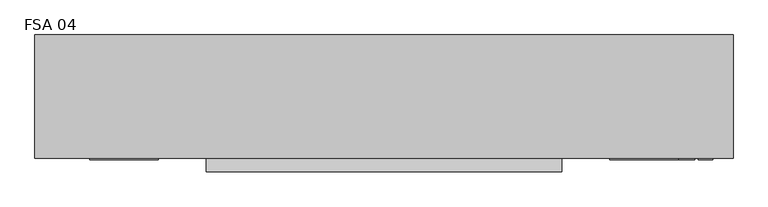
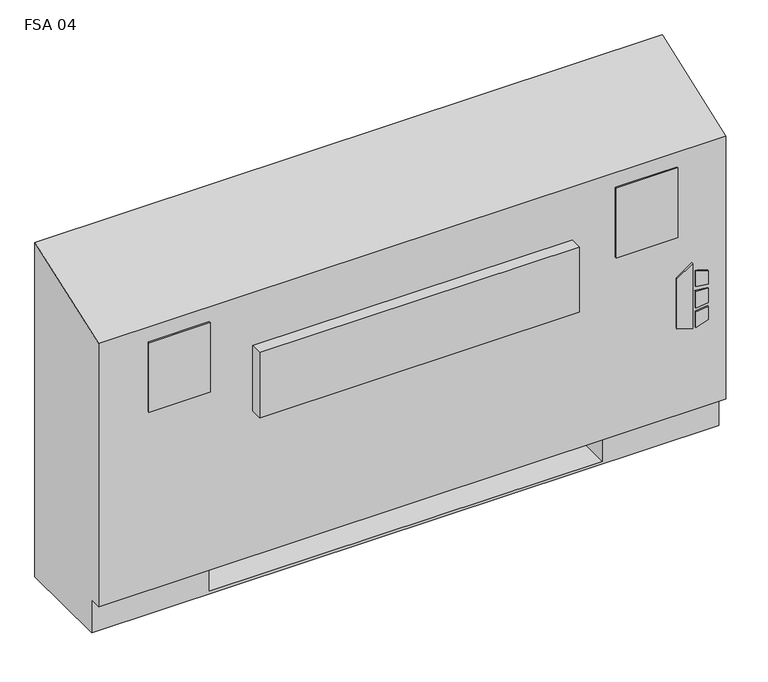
"""IFC4 building model written with IfcOpenShell, lengths in millimetres: proxy geometry, Vertical_Fan_Coil_Unit_-_FSA_-_IEC_-_2-Pipe_FS-FR_RH_2022 : FSA 04."""

from ifc_helpers import new_model, si_unit, point, frame, frame_2d, origin, place, context, project, spatial, polyline, circle_curve, trimmed, segment, composite_curve, outline, extrude, source, transform, mapped, element, save
from ifc_brep_helpers import plane_surface, revolved_surface, advanced_brep


def fsa_04_9fea3f96(model_context):
    return source(origin(), model_context, "Body", "SolidModel", [
        extrude(outline(polyline([(263.9480703, 696.9868862), (254.0, 729.1602728), (396.1709244, 729.1602728), (373.1489183, 696.9868862), (263.9480703, 696.9868862)])), frame((0.0, 12.7, 0.0), z_axis=(0.0, 1.0, 0.0), x_axis=(0.0, 0.0, 1.0)), (0.0, 0.0, 1.0), 3.175),
        extrude(outline(polyline([(342.9473557, 735.9186058), (339.7449632, 762.0), (368.9738042, 762.0), (377.0382193, 735.9186058), (342.9473557, 735.9186058)])), frame((0.0, 12.7, 0.0), z_axis=(0.0, 1.0, 0.0), x_axis=(0.0, 0.0, 1.0)), (0.0, 0.0, 1.0), 3.175),
        extrude(outline(polyline([(291.0838288, 762.0), (287.4183279, 735.9186058), (254.0, 735.9186058), (262.6342372, 762.0), (291.0838288, 762.0)])), frame((0.0, 12.7, 0.0), z_axis=(0.0, 1.0, 0.0), x_axis=(0.0, 0.0, 1.0)), (0.0, 0.0, 1.0), 3.175),
        extrude(outline(polyline([(330.3989903, 762.0), (332.6808166, 735.9186058), (296.7432681, 735.9186058), (299.4845331, 762.0), (330.3989903, 762.0)])), frame((0.0, 12.7, 0.0), z_axis=(0.0, 1.0, 0.0), x_axis=(0.0, 0.0, 1.0)), (0.0, 0.0, 1.0), 3.175),
        extrude(outline(polyline([(-374.65, 81.534), (-374.65, 223.266), (-254.0, 223.266), (-254.0, 81.534), (-374.65, 81.534)])), frame((0.0, 0.0, 327.025), z_axis=(0.0, 0.0, 1.0), x_axis=(1.0, 0.0, 0.0)), (0.0, 0.0, 1.0), 260.35),
        extrude(outline(polyline([(-266.7, 12.7), (-393.7, 12.7), (-393.7, 15.875), (-266.7, 15.875), (-266.7, 12.7)])), frame((0.0, 0.0, 463.55), z_axis=(0.0, 0.0, 1.0), x_axis=(1.0, 0.0, 0.0)), (0.0, 0.0, 1.0), 152.4),
        extrude(outline(polyline([(698.5, 12.7), (571.5, 12.7), (571.5, 15.875), (698.5, 15.875), (698.5, 12.7)])), frame((0.0, 0.0, 463.55), z_axis=(0.0, 0.0, 1.0), x_axis=(1.0, 0.0, 0.0)), (0.0, 0.0, 1.0), 152.4),
        extrude(outline(composite_curve([segment(trimmed(circle_curve(frame_2d((622.3, 130.175)), 9.525), [point((612.775, 130.175))], [point((631.825, 130.175))], False, "CARTESIAN"), True, "CONTINUOUS"), segment(trimmed(circle_curve(frame_2d((622.3, 130.175)), 9.525), [point((631.825, 130.175))], [point((612.775, 130.175))], False, "CARTESIAN"), True, "CONTINUOUS")], self_intersect=False)), frame((0.0, 0.0, 101.6), z_axis=(0.0, 0.0, 1.0), x_axis=(1.0, 0.0, 0.0)), (0.0, 0.0, 1.0), 25.4),
        extrude(outline(polyline([(723.9, 196.85), (723.9, 63.5), (558.8, 63.5), (558.8, 196.85), (723.9, 196.85)])), frame((0.0, 0.0, 127.0), z_axis=(0.0, 0.0, 1.0), x_axis=(1.0, 0.0, 0.0)), (0.0, 0.0, 1.0), 50.8),
        extrude(outline(polyline([(482.6, -9.525), (-177.8, -9.525), (-177.8, 15.875), (482.6, 15.875), (482.6, -9.525)])), frame((0.0, 0.0, 389.3009245), z_axis=(0.0, 0.0, 1.0), x_axis=(1.0, 0.0, 0.0)), (0.0, 0.0, 1.0), 142.875),
        extrude(outline(composite_curve([segment(trimmed(circle_curve(frame_2d((109.347, 456.819)), 7.9375), [point((109.347, 464.7565))], [point((109.347, 448.8815))], False, "CARTESIAN"), True, "CONTINUOUS"), segment(trimmed(circle_curve(frame_2d((109.347, 456.819)), 7.9375), [point((109.347, 448.8815))], [point((109.347, 464.7565))], False, "CARTESIAN"), True, "CONTINUOUS")], self_intersect=False)), frame((558.8, 0.0, 0.0), z_axis=(1.0, 0.0, 0.0), x_axis=(0.0, 1.0, 0.0)), (0.0, 0.0, 1.0), 50.8),
        extrude(outline(composite_curve([segment(trimmed(circle_curve(frame_2d((157.4546, 429.4632)), 7.9375), [point((157.4546, 437.4007))], [point((157.4546, 421.5257))], False, "CARTESIAN"), True, "CONTINUOUS"), segment(trimmed(circle_curve(frame_2d((157.4546, 429.4632)), 7.9375), [point((157.4546, 421.5257))], [point((157.4546, 437.4007))], False, "CARTESIAN"), True, "CONTINUOUS")], self_intersect=False)), frame((558.8, 0.0, 0.0), z_axis=(1.0, 0.0, 0.0), x_axis=(0.0, 1.0, 0.0)), (0.0, 0.0, 1.0), 50.8),
        advanced_brep(
        [(-495.3, 244.475, 0.0), (800.1, 244.475, 0.0), (800.1, 41.275, 0.0), (-495.3, 41.275, 0.0), (-495.3, 244.475, 730.25), (800.1, 244.475, 730.25), (558.8, 244.475, 73.025), (787.4, 244.475, 73.025), (787.4, 244.475, 654.05), (558.8, 244.475, 654.05), (558.8, 244.475, 414.8650565), (587.375, 244.475, 414.8650565), (587.375, 244.475, 385.2349435), (558.8, 244.475, 385.2349435), (558.8, 244.475, 287.3375), (587.375, 244.475, 287.3375), (587.375, 244.475, 258.7625), (558.8, 244.475, 258.7625), (558.8, 244.475, 141.2875), (587.375, 244.475, 141.2875), (587.375, 244.475, 112.7125), (558.8, 244.475, 112.7125), (-254.0, 244.475, 654.05), (-482.6, 244.475, 654.05), (-482.6, 244.475, 73.025), (-254.0, 244.475, 73.025), (-254.0, 244.475, 112.7125), (-282.575, 244.475, 112.7125), (-282.575, 244.475, 141.2875), (-254.0, 244.475, 141.2875), (-254.0, 244.475, 258.7625), (-282.575, 244.475, 258.7625), (-282.575, 244.475, 287.3375), (-254.0, 244.475, 287.3375), (-254.0, 244.475, 385.2349435), (-282.575, 244.475, 385.2349435), (-282.575, 244.475, 414.8650565), (-254.0, 244.475, 414.8650565), (577.0626, 244.475, 127.0), (565.9374, 244.475, 127.0), (577.0626, 244.475, 400.05), (565.9374, 244.475, 400.05), (577.0626, 244.475, 273.05), (565.9374, 244.475, 273.05), (-261.1374, 244.475, 127.0), (-272.2626, 244.475, 127.0), (-261.1374, 244.475, 273.05), (-272.2626, 244.475, 273.05), (-261.1374, 244.475, 400.05), (-272.2626, 244.475, 400.05), (-495.3, 41.275, 73.025), (-495.3, 15.875, 73.025), (-495.3, 15.875, 647.7), (800.1, 15.875, 73.025), (800.1, 15.875, 647.7), (800.1, 41.275, 73.025), (-254.0, 41.275, 73.025), (-254.0, 225.425, 73.025), (558.8, 225.425, 73.025), (558.8, 41.275, 73.025), (558.8, 41.275, 6.35), (-254.0, 41.275, 6.35), (558.8, 41.275, 654.05), (787.4, 41.275, 654.05), (787.4, 41.275, 73.025), (558.8, 41.275, 73.025), (-254.0, 41.275, 654.05), (-254.0, 41.275, 73.025), (-482.6, 41.275, 73.025), (-482.6, 41.275, 654.05), (558.8, 225.425, 73.025), (558.8, 238.125, 112.7125), (558.8, 238.125, 141.2875), (558.8, 238.125, 258.7625), (558.8, 238.125, 287.3375), (558.8, 238.125, 385.2349435), (558.8, 238.125, 414.8650565), (-254.0, 225.425, 73.025), (-254.0, 238.125, 414.8650565), (-254.0, 238.125, 385.2349435), (-254.0, 238.125, 287.3375), (-254.0, 238.125, 258.7625), (-254.0, 238.125, 141.2875), (-254.0, 238.125, 112.7125), (-254.0, 225.425, 6.35), (558.8, 225.425, 6.35), (587.375, 238.125, 112.7125), (587.375, 238.125, 141.2875), (565.9374, 238.125, 127.0), (577.0626, 238.125, 127.0), (587.375, 238.125, 258.7625), (587.375, 238.125, 287.3375), (565.9374, 238.125, 273.05), (577.0626, 238.125, 273.05), (587.375, 238.125, 385.2349435), (587.375, 238.125, 414.8650565), (565.9374, 238.125, 400.05), (577.0626, 238.125, 400.05), (-282.575, 238.125, 141.2875), (-282.575, 238.125, 112.7125), (-272.2626, 238.125, 127.0), (-261.1374, 238.125, 127.0), (-282.575, 238.125, 287.3375), (-282.575, 238.125, 258.7625), (-272.2626, 238.125, 273.05), (-261.1374, 238.125, 273.05), (-282.575, 238.125, 414.8650565), (-282.575, 238.125, 385.2349435), (-272.2626, 238.125, 400.05), (-261.1374, 238.125, 400.05)],
        [
            (0, 1),
            (1, 2),
            (2, 3),
            (3, 0),
            (0, 4),
            (4, 5),
            (5, 1),
            (6, 7),
            (7, 8),
            (8, 9),
            (9, 10),
            (10, 11),
            (11, 12),
            (12, 13),
            (13, 14),
            (14, 15),
            (15, 16),
            (16, 17),
            (17, 18),
            (18, 19),
            (19, 20),
            (20, 21),
            (21, 6),
            (22, 23),
            (23, 24),
            (24, 25),
            (25, 26),
            (26, 27),
            (27, 28),
            (28, 29),
            (29, 30),
            (30, 31),
            (31, 32),
            (32, 33),
            (33, 34),
            (34, 35),
            (35, 36),
            (36, 37),
            (37, 22),
            (38, 39, circle_curve(frame((571.5, 244.475, 127.0), z_axis=(0.0, -1.0, 0.0), x_axis=(-1.0, 0.0, 0.0)), 5.5626)),
            (39, 38, circle_curve(frame((571.5, 244.475, 127.0), z_axis=(0.0, -1.0, 0.0), x_axis=(-1.0, 0.0, 0.0)), 5.5626)),
            (40, 41, circle_curve(frame((571.5, 244.475, 400.05), z_axis=(0.0, -1.0, 0.0), x_axis=(-1.0, 0.0, 0.0)), 5.5626)),
            (41, 40, circle_curve(frame((571.5, 244.475, 400.05), z_axis=(0.0, -1.0, 0.0), x_axis=(-1.0, 0.0, 0.0)), 5.5626)),
            (42, 43, circle_curve(frame((571.5, 244.475, 273.05), z_axis=(0.0, -1.0, 0.0), x_axis=(-1.0, 0.0, 0.0)), 5.5626)),
            (43, 42, circle_curve(frame((571.5, 244.475, 273.05), z_axis=(0.0, -1.0, 0.0), x_axis=(-1.0, 0.0, 0.0)), 5.5626)),
            (44, 45, circle_curve(frame((-266.7, 244.475, 127.0), z_axis=(0.0, -1.0, 0.0), x_axis=(-1.0, 0.0, 0.0)), 5.5626)),
            (45, 44, circle_curve(frame((-266.7, 244.475, 127.0), z_axis=(0.0, -1.0, 0.0), x_axis=(-1.0, 0.0, 0.0)), 5.5626)),
            (46, 47, circle_curve(frame((-266.7, 244.475, 273.05), z_axis=(0.0, -1.0, 0.0), x_axis=(-1.0, 0.0, 0.0)), 5.5626)),
            (47, 46, circle_curve(frame((-266.7, 244.475, 273.05), z_axis=(0.0, -1.0, 0.0), x_axis=(-1.0, 0.0, 0.0)), 5.5626)),
            (48, 49, circle_curve(frame((-266.7, 244.475, 400.05), z_axis=(0.0, -1.0, 0.0), x_axis=(-1.0, 0.0, 0.0)), 5.5626)),
            (49, 48, circle_curve(frame((-266.7, 244.475, 400.05), z_axis=(0.0, -1.0, 0.0), x_axis=(-1.0, 0.0, 0.0)), 5.5626)),
            (3, 50),
            (50, 51),
            (51, 52),
            (52, 4),
            (51, 53),
            (53, 54),
            (54, 52),
            (5, 54),
            (53, 55),
            (55, 2),
            (50, 56),
            (56, 57),
            (57, 58),
            (58, 59),
            (59, 55),
            (59, 60),
            (60, 61),
            (61, 56),
            (62, 63),
            (63, 64),
            (64, 65),
            (65, 62),
            (66, 67),
            (67, 68),
            (68, 69),
            (69, 66),
            (65, 70),
            (70, 6),
            (21, 71),
            (71, 72),
            (72, 18),
            (17, 73),
            (73, 74),
            (74, 14),
            (13, 75),
            (75, 76),
            (76, 10),
            (9, 62),
            (64, 7),
            (63, 8),
            (69, 23),
            (22, 66),
            (68, 24),
            (67, 77),
            (77, 25),
            (37, 78),
            (78, 79),
            (79, 34),
            (33, 80),
            (80, 81),
            (81, 30),
            (29, 82),
            (82, 83),
            (83, 26),
            (57, 84),
            (84, 85),
            (85, 58),
            (85, 60),
            (84, 61),
            (71, 86),
            (86, 87),
            (87, 72),
            (88, 89, circle_curve(frame((571.5, 238.125, 127.0), z_axis=(0.0, 1.0, 0.0), x_axis=(-1.0, 0.0, 0.0)), 5.5626)),
            (89, 88, circle_curve(frame((571.5, 238.125, 127.0), z_axis=(0.0, 1.0, 0.0), x_axis=(-1.0, 0.0, 0.0)), 5.5626)),
            (73, 90),
            (90, 91),
            (91, 74),
            (92, 93, circle_curve(frame((571.5, 238.125, 273.05), z_axis=(0.0, 1.0, 0.0), x_axis=(-1.0, 0.0, 0.0)), 5.5626)),
            (93, 92, circle_curve(frame((571.5, 238.125, 273.05), z_axis=(0.0, 1.0, 0.0), x_axis=(-1.0, 0.0, 0.0)), 5.5626)),
            (75, 94),
            (94, 95),
            (95, 76),
            (96, 97, circle_curve(frame((571.5, 238.125, 400.05), z_axis=(0.0, 1.0, 0.0), x_axis=(-1.0, 0.0, 0.0)), 5.5626)),
            (97, 96, circle_curve(frame((571.5, 238.125, 400.05), z_axis=(0.0, 1.0, 0.0), x_axis=(-1.0, 0.0, 0.0)), 5.5626)),
            (98, 99),
            (99, 83),
            (82, 98),
            (100, 101, circle_curve(frame((-266.7, 238.125, 127.0), z_axis=(0.0, 1.0, 0.0), x_axis=(-1.0, 0.0, 0.0)), 5.5626)),
            (101, 100, circle_curve(frame((-266.7, 238.125, 127.0), z_axis=(0.0, 1.0, 0.0), x_axis=(-1.0, 0.0, 0.0)), 5.5626)),
            (102, 103),
            (103, 81),
            (80, 102),
            (104, 105, circle_curve(frame((-266.7, 238.125, 273.05), z_axis=(0.0, 1.0, 0.0), x_axis=(-1.0, 0.0, 0.0)), 5.5626)),
            (105, 104, circle_curve(frame((-266.7, 238.125, 273.05), z_axis=(0.0, 1.0, 0.0), x_axis=(-1.0, 0.0, 0.0)), 5.5626)),
            (106, 107),
            (107, 79),
            (78, 106),
            (108, 109, circle_curve(frame((-266.7, 238.125, 400.05), z_axis=(0.0, 1.0, 0.0), x_axis=(-1.0, 0.0, 0.0)), 5.5626)),
            (109, 108, circle_curve(frame((-266.7, 238.125, 400.05), z_axis=(0.0, 1.0, 0.0), x_axis=(-1.0, 0.0, 0.0)), 5.5626)),
            (87, 19),
            (86, 20),
            (91, 15),
            (90, 16),
            (95, 11),
            (94, 12),
            (28, 98),
            (99, 27),
            (32, 102),
            (103, 31),
            (36, 106),
            (107, 35),
            (88, 39),
            (38, 89),
            (96, 41),
            (40, 97),
            (92, 43),
            (42, 93),
            (100, 45),
            (44, 101),
            (104, 47),
            (46, 105),
            (108, 49),
            (48, 109),
        ],
        [
            plane_surface(frame((-495.3, 244.475, 0.0), z_axis=(0.0, 0.0, -1.0), x_axis=(1.0, 0.0, 0.0))),
            plane_surface(frame((800.1, 244.475, 730.25), z_axis=(0.0, 1.0, 0.0), x_axis=(0.0, 0.0, -1.0))),
            plane_surface(frame((-495.3, 244.475, 730.25), z_axis=(-1.0, 0.0, 0.0), x_axis=(0.0, 0.0, -1.0))),
            plane_surface(frame((-495.3, 15.875, 730.25), z_axis=(0.0, -1.0, 0.0), x_axis=(0.0, 0.0, -1.0))),
            plane_surface(frame((800.1, 15.875, 730.25), z_axis=(1.0, 0.0, 0.0), x_axis=(0.0, 0.0, -1.0))),
            plane_surface(frame((-495.3, 15.875, 73.025), z_axis=(0.0, 0.0, -1.0), x_axis=(1.0, 0.0, 0.0))),
            plane_surface(frame((-495.3, 41.275, 73.025), z_axis=(0.0, -1.0, 0.0), x_axis=(1.0, 0.0, 0.0))),
            plane_surface(frame((558.8, 41.275, 654.05), z_axis=(0.0, 1.0, 0.0), x_axis=(0.0, 0.0, -1.0))),
            plane_surface(frame((558.8, 41.275, 654.05), z_axis=(1.0, 0.0, 0.0), x_axis=(0.0, 1.0, 0.0))),
            plane_surface(frame((558.8, 41.275, 73.025), z_axis=(0.0, 0.0, 1.0), x_axis=(0.0, 1.0, 0.0))),
            plane_surface(frame((787.4, 41.275, 73.025), z_axis=(-1.0, 0.0, 0.0), x_axis=(0.0, 1.0, 0.0))),
            plane_surface(frame((787.4, 41.275, 654.05), z_axis=(0.0, 0.0, -1.0), x_axis=(0.0, 1.0, 0.0))),
            plane_surface(frame((-254.0, 41.275, 654.05), z_axis=(0.0, 0.0, -1.0), x_axis=(0.0, 1.0, 0.0))),
            plane_surface(frame((-482.6, 41.275, 654.05), z_axis=(1.0, 0.0, 0.0), x_axis=(0.0, 1.0, 0.0))),
            plane_surface(frame((-482.6, 41.275, 73.025), z_axis=(0.0, 0.0, 1.0), x_axis=(0.0, 1.0, 0.0))),
            plane_surface(frame((-254.0, 41.275, 73.025), z_axis=(-1.0, 0.0, 0.0), x_axis=(0.0, 1.0, 0.0))),
            plane_surface(frame((558.8, 225.425, 73.025), z_axis=(0.0, -1.0, 0.0), x_axis=(0.0, 0.0, -1.0))),
            plane_surface(frame((558.8, 225.425, 73.025), z_axis=(-1.0, 0.0, 0.0), x_axis=(0.0, -1.0, 0.0))),
            plane_surface(frame((558.8, 225.425, 6.35), z_axis=(0.0, 0.0, 1.0), x_axis=(0.0, -1.0, 0.0))),
            plane_surface(frame((-254.0, 225.425, 6.35), z_axis=(1.0, 0.0, 0.0), x_axis=(0.0, -1.0, 0.0))),
            plane_surface(frame((587.375, 238.125, 141.2875), z_axis=(0.0, -1.0, 0.0), x_axis=(-1.0, 0.0, 0.0))),
            plane_surface(frame((558.8, 244.475, 141.2875), z_axis=(0.0, 0.0, 1.0), x_axis=(0.0, -1.0, 0.0))),
            plane_surface(frame((587.375, 244.475, 141.2875), z_axis=(1.0, 0.0, 0.0), x_axis=(0.0, -1.0, 0.0))),
            plane_surface(frame((587.375, 244.475, 112.7125), z_axis=(0.0, 0.0, -1.0), x_axis=(0.0, -1.0, 0.0))),
            plane_surface(frame((558.8, 244.475, 287.3375), z_axis=(0.0, 0.0, 1.0), x_axis=(0.0, -1.0, 0.0))),
            plane_surface(frame((587.375, 244.475, 287.3375), z_axis=(1.0, 0.0, 0.0), x_axis=(0.0, -1.0, 0.0))),
            plane_surface(frame((587.375, 244.475, 258.7625), z_axis=(0.0, 0.0, -1.0), x_axis=(0.0, -1.0, 0.0))),
            plane_surface(frame((558.8, 244.475, 414.8650565), z_axis=(0.0, 0.0, 1.0), x_axis=(0.0, -1.0, 0.0))),
            plane_surface(frame((587.375, 244.475, 414.8650565), z_axis=(1.0, 0.0, 0.0), x_axis=(0.0, -1.0, 0.0))),
            plane_surface(frame((587.375, 244.475, 385.2349435), z_axis=(0.0, 0.0, -1.0), x_axis=(0.0, -1.0, 0.0))),
            plane_surface(frame((-282.575, 244.475, 141.2875), z_axis=(0.0, 0.0, 1.0), x_axis=(0.0, -1.0, 0.0))),
            plane_surface(frame((-254.0, 244.475, 112.7125), z_axis=(0.0, 0.0, -1.0), x_axis=(0.0, -1.0, 0.0))),
            plane_surface(frame((-282.575, 244.475, 112.7125), z_axis=(-1.0, 0.0, 0.0), x_axis=(0.0, -1.0, 0.0))),
            plane_surface(frame((-282.575, 244.475, 287.3375), z_axis=(0.0, 0.0, 1.0), x_axis=(0.0, -1.0, 0.0))),
            plane_surface(frame((-254.0, 244.475, 258.7625), z_axis=(0.0, 0.0, -1.0), x_axis=(0.0, -1.0, 0.0))),
            plane_surface(frame((-282.575, 244.475, 258.7625), z_axis=(-1.0, 0.0, 0.0), x_axis=(0.0, -1.0, 0.0))),
            plane_surface(frame((-282.575, 244.475, 414.8650565), z_axis=(0.0, 0.0, 1.0), x_axis=(0.0, -1.0, 0.0))),
            plane_surface(frame((-254.0, 244.475, 385.2349435), z_axis=(0.0, 0.0, -1.0), x_axis=(0.0, -1.0, 0.0))),
            plane_surface(frame((-282.575, 244.475, 385.2349435), z_axis=(-1.0, 0.0, 0.0), x_axis=(0.0, -1.0, 0.0))),
            revolved_surface(polyline([(565.9374, 238.125, 127.0), (565.9374, 244.475, 127.0)]), (571.5, 244.475, 127.0), (0.0, -1.0, 0.0)),
            revolved_surface(polyline([(565.9374, 238.125, 400.05), (565.9374, 244.475, 400.05)]), (571.5, 244.475, 400.05), (0.0, -1.0, 0.0)),
            revolved_surface(polyline([(565.9374, 238.125, 273.05), (565.9374, 244.475, 273.05)]), (571.5, 244.475, 273.05), (0.0, -1.0, 0.0)),
            revolved_surface(polyline([(-272.26259999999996, 238.125, 127.0), (-272.26259999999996, 244.475, 127.0)]), (-266.7, 244.475, 127.0), (0.0, -1.0, 0.0)),
            revolved_surface(polyline([(-272.26259999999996, 238.125, 273.05), (-272.26259999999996, 244.475, 273.05)]), (-266.7, 244.475, 273.05), (0.0, -1.0, 0.0)),
            revolved_surface(polyline([(-272.26259999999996, 238.125, 400.05), (-272.26259999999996, 244.475, 400.05)]), (-266.7, 244.475, 400.05), (0.0, -1.0, 0.0)),
            plane_surface(frame((-495.3, 244.475, 730.25), z_axis=(0.0, -0.33964446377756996, 0.9405538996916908), x_axis=(1.0, 0.0, 0.0))),
        ],
        [
            (0, [[1, 2, 3, 4]]),
            (1, [[-1, 5, 6, 7], [8, 9, 10, 11, 12, 13, 14, 15, 16, 17, 18, 19, 20, 21, 22, 23], [24, 25, 26, 27, 28, 29, 30, 31, 32, 33, 34, 35, 36, 37, 38, 39], [40, 41], [42, 43], [44, 45], [46, 47], [48, 49], [50, 51]]),
            (2, [[-5, -4, 52, 53, 54, 55]]),
            (3, [[56, 57, 58, -54]]),
            (4, [[-7, 59, -57, 60, 61, -2]]),
            (5, [[-53, 62, 63, 64, 65, 66, -60, -56]]),
            (6, [[-3, -61, -66, 67, 68, 69, -62, -52]]),
            (7, [[70, 71, 72, 73]]),
            (7, [[74, 75, 76, 77]]),
            (8, [[-73, 78, 79, -23, 80, 81, 82, -19, 83, 84, 85, -15, 86, 87, 88, -11, 89]]),
            (9, [[-72, 90, -8, -79, -78]]),
            (10, [[-71, 91, -9, -90]]),
            (11, [[-70, -89, -10, -91]]),
            (12, [[-77, 92, -24, 93]]),
            (13, [[-76, 94, -25, -92]]),
            (14, [[-75, 95, 96, -26, -94]]),
            (15, [[-74, -93, -39, 97, 98, 99, -35, 100, 101, 102, -31, 103, 104, 105, -27, -96, -95]]),
            (16, [[-64, 106, 107, 108]]),
            (17, [[-108, 109, -67, -65]]),
            (18, [[-107, 110, -68, -109]]),
            (19, [[-106, -63, -69, -110]]),
            (20, [[111, 112, 113, -81], [114, 115]]),
            (20, [[116, 117, 118, -84], [119, 120]]),
            (20, [[121, 122, 123, -87], [124, 125]]),
            (20, [[126, 127, -104, 128], [129, 130]]),
            (20, [[131, 132, -101, 133], [134, 135]]),
            (20, [[136, 137, -98, 138], [139, 140]]),
            (21, [[-113, 141, -20, -82]]),
            (22, [[-112, 142, -21, -141]]),
            (23, [[-111, -80, -22, -142]]),
            (24, [[-118, 143, -16, -85]]),
            (25, [[-117, 144, -17, -143]]),
            (26, [[-116, -83, -18, -144]]),
            (27, [[-123, 145, -12, -88]]),
            (28, [[-122, 146, -13, -145]]),
            (29, [[-121, -86, -14, -146]]),
            (30, [[-128, -103, -30, 147]]),
            (31, [[-127, 148, -28, -105]]),
            (32, [[-126, -147, -29, -148]]),
            (33, [[-133, -100, -34, 149]]),
            (34, [[-132, 150, -32, -102]]),
            (35, [[-131, -149, -33, -150]]),
            (36, [[-138, -97, -38, 151]]),
            (37, [[-137, 152, -36, -99]]),
            (38, [[-136, -151, -37, -152]]),
            (39, [[153, -40, 154, -114]]),
            (39, [[-153, -115, -154, -41]]),
            (40, [[155, -42, 156, -124]]),
            (40, [[-155, -125, -156, -43]]),
            (41, [[157, -44, 158, -119]]),
            (41, [[-157, -120, -158, -45]]),
            (42, [[159, -46, 160, -129]]),
            (42, [[-159, -130, -160, -47]]),
            (43, [[161, -48, 162, -134]]),
            (43, [[-161, -135, -162, -49]]),
            (44, [[163, -50, 164, -139]]),
            (44, [[-163, -140, -164, -51]]),
            (45, [[-6, -55, -58, -59]]),
        ],
    ),
    ])


if __name__ == "__main__":
    model = new_model("IFC4")
    model_context = context("Model", 3, world=origin())
    ifc_project = project(units=[si_unit("LENGTHUNIT", "METRE", prefix="MILLI")], contexts=[model_context])
    site = spatial("IfcSite", under=ifc_project)
    building = spatial("IfcBuilding", under=site)
    placement = place(None, origin())
    fsa_04_shape = fsa_04_9fea3f96(model_context)
    element("IfcBuildingElementProxy", 1, Name="Vertical_Fan_Coil_Unit_-_FSA_-_IEC_-_2-Pipe_FS-FR_RH_2022 : FSA 04", ObjectType="Vertical_Fan_Coil_Unit_-_FSA_-_IEC_-_2-Pipe_FS-FR_RH_2022 : FSA 04", at=placement, inside=building, context=model_context, shape_type="MappedRepresentation", body=[
        mapped(fsa_04_shape, transform((0.0, 0.0, 0.0), x_axis=(1.0, 0.0, 0.0), y_axis=(0.0, 1.0, 0.0), z_axis=(0.0, 0.0, 1.0))),
    ])
    save(model, "model.ifc")
